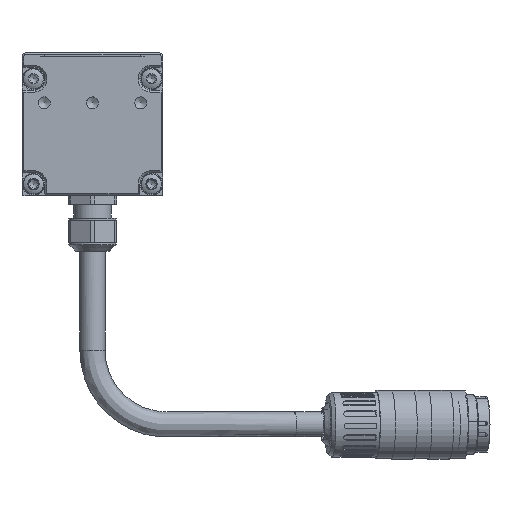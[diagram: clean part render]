
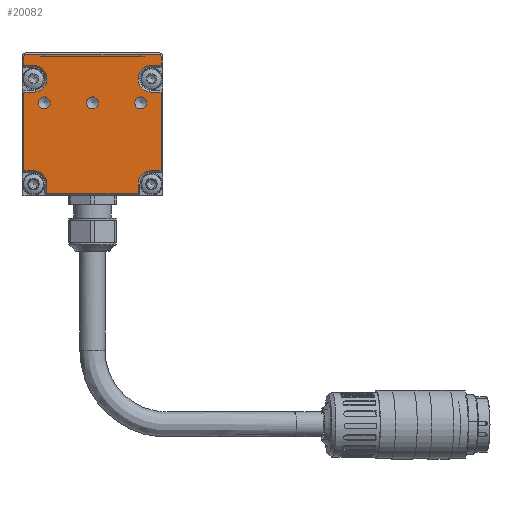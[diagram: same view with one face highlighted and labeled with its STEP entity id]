
A CAD part, left-side view. The second image highlights one B-rep face of the part: STEP entity #20082.
In plain terms, the highlighted planar face has unit normal (-1, 0, 0).
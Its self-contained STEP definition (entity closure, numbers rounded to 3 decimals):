
#880=LINE('',#27913,#1882);
#882=LINE('',#27917,#1884);
#886=LINE('',#27925,#1888);
#889=LINE('',#27931,#1891);
#891=LINE('',#27936,#1893);
#895=LINE('',#27944,#1897);
#897=LINE('',#27948,#1899);
#901=LINE('',#27957,#1903);
#903=LINE('',#27962,#1905);
#906=LINE('',#27970,#1908);
#909=LINE('',#27976,#1911);
#912=LINE('',#27984,#1914);
#916=LINE('',#27992,#1918);
#919=LINE('',#27999,#1921);
#1882=VECTOR('',#23214,1000.);
#1884=VECTOR('',#23218,1000.);
#1888=VECTOR('',#23224,1000.);
#1891=VECTOR('',#23229,1000.);
#1893=VECTOR('',#23235,1000.);
#1897=VECTOR('',#23241,1000.);
#1899=VECTOR('',#23247,1000.);
#1903=VECTOR('',#23257,1000.);
#1905=VECTOR('',#23265,1000.);
#1908=VECTOR('',#23274,1000.);
#1911=VECTOR('',#23283,1000.);
#1914=VECTOR('',#23292,1000.);
#1918=VECTOR('',#23302,1000.);
#1921=VECTOR('',#23311,1000.);
#2682=PLANE('',#21147);
#3923=ORIENTED_EDGE('',*,*,#7674,.T.);
#3924=ORIENTED_EDGE('',*,*,#7675,.T.);
#3925=ORIENTED_EDGE('',*,*,#7676,.T.);
#3926=ORIENTED_EDGE('',*,*,#7648,.T.);
#3927=ORIENTED_EDGE('',*,*,#7645,.T.);
#3928=ORIENTED_EDGE('',*,*,#7639,.T.);
#3929=ORIENTED_EDGE('',*,*,#7656,.T.);
#3930=ORIENTED_EDGE('',*,*,#7654,.T.);
#3931=ORIENTED_EDGE('',*,*,#7652,.T.);
#3932=ORIENTED_EDGE('',*,*,#7630,.T.);
#3933=ORIENTED_EDGE('',*,*,#7663,.T.);
#3934=ORIENTED_EDGE('',*,*,#7661,.T.);
#3935=ORIENTED_EDGE('',*,*,#7659,.T.);
#3936=ORIENTED_EDGE('',*,*,#7628,.T.);
#3937=ORIENTED_EDGE('',*,*,#7673,.F.);
#3938=ORIENTED_EDGE('',*,*,#7643,.T.);
#3939=ORIENTED_EDGE('',*,*,#7672,.F.);
#3940=ORIENTED_EDGE('',*,*,#7637,.T.);
#3941=ORIENTED_EDGE('',*,*,#7671,.T.);
#3942=ORIENTED_EDGE('',*,*,#7669,.T.);
#3943=ORIENTED_EDGE('',*,*,#7667,.T.);
#3944=ORIENTED_EDGE('',*,*,#7634,.T.);
#3945=ORIENTED_EDGE('',*,*,#7650,.T.);
#7628=EDGE_CURVE('',#9566,#9567,#880,.T.);
#7630=EDGE_CURVE('',#9569,#9568,#882,.T.);
#7634=EDGE_CURVE('',#9570,#9571,#886,.T.);
#7637=EDGE_CURVE('',#9572,#9573,#889,.T.);
#7639=EDGE_CURVE('',#9575,#9574,#891,.T.);
#7643=EDGE_CURVE('',#9576,#9577,#895,.T.);
#7645=EDGE_CURVE('',#9578,#9575,#897,.T.);
#7648=EDGE_CURVE('',#9579,#9578,#10697,.T.);
#7650=EDGE_CURVE('',#9571,#9579,#901,.T.);
#7652=EDGE_CURVE('',#9580,#9569,#903,.T.);
#7654=EDGE_CURVE('',#9581,#9580,#10698,.T.);
#7656=EDGE_CURVE('',#9574,#9581,#906,.T.);
#7659=EDGE_CURVE('',#9582,#9566,#909,.T.);
#7661=EDGE_CURVE('',#9583,#9582,#10699,.T.);
#7663=EDGE_CURVE('',#9568,#9583,#912,.T.);
#7667=EDGE_CURVE('',#9584,#9570,#916,.T.);
#7669=EDGE_CURVE('',#9585,#9584,#10700,.T.);
#7671=EDGE_CURVE('',#9573,#9585,#919,.T.);
#7672=EDGE_CURVE('',#9572,#9577,#10701,.T.);
#7673=EDGE_CURVE('',#9576,#9567,#10702,.T.);
#7674=EDGE_CURVE('',#9586,#9586,#10703,.T.);
#7675=EDGE_CURVE('',#9587,#9587,#10704,.T.);
#7676=EDGE_CURVE('',#9588,#9588,#10705,.T.);
#9566=VERTEX_POINT('',#27910);
#9567=VERTEX_POINT('',#27912);
#9568=VERTEX_POINT('',#27916);
#9569=VERTEX_POINT('',#27918);
#9570=VERTEX_POINT('',#27922);
#9571=VERTEX_POINT('',#27924);
#9572=VERTEX_POINT('',#27928);
#9573=VERTEX_POINT('',#27930);
#9574=VERTEX_POINT('',#27935);
#9575=VERTEX_POINT('',#27937);
#9576=VERTEX_POINT('',#27941);
#9577=VERTEX_POINT('',#27943);
#9578=VERTEX_POINT('',#27949);
#9579=VERTEX_POINT('',#27953);
#9580=VERTEX_POINT('',#27963);
#9581=VERTEX_POINT('',#27967);
#9582=VERTEX_POINT('',#27977);
#9583=VERTEX_POINT('',#27981);
#9584=VERTEX_POINT('',#27991);
#9585=VERTEX_POINT('',#27995);
#9586=VERTEX_POINT('',#28007);
#9587=VERTEX_POINT('',#28009);
#9588=VERTEX_POINT('',#28011);
#10697=CIRCLE('',#21122,3.6);
#10698=CIRCLE('',#21128,3.6);
#10699=CIRCLE('',#21134,3.6);
#10700=CIRCLE('',#21140,3.6);
#10701=CIRCLE('',#21144,0.5);
#10702=CIRCLE('',#21146,0.5);
#10703=CIRCLE('',#21148,1.621);
#10704=CIRCLE('',#21149,1.621);
#10705=CIRCLE('',#21150,1.621);
#11388=EDGE_LOOP('',(#3923));
#11389=EDGE_LOOP('',(#3924));
#11390=EDGE_LOOP('',(#3925));
#11391=EDGE_LOOP('',(#3926,#3927,#3928,#3929,#3930,#3931,#3932,#3933,#3934,
#3935,#3936,#3937,#3938,#3939,#3940,#3941,#3942,#3943,#3944,#3945));
#12478=FACE_BOUND('',#11388,.T.);
#12479=FACE_BOUND('',#11389,.T.);
#12480=FACE_BOUND('',#11390,.T.);
#12481=FACE_BOUND('',#11391,.T.);
#20082=ADVANCED_FACE('',(#12478,#12479,#12480,#12481),#2682,.F.);
#21122=AXIS2_PLACEMENT_3D('',#27954,#23252,#23253);
#21128=AXIS2_PLACEMENT_3D('',#27966,#23269,#23270);
#21134=AXIS2_PLACEMENT_3D('',#27980,#23287,#23288);
#21140=AXIS2_PLACEMENT_3D('',#27996,#23306,#23307);
#21144=AXIS2_PLACEMENT_3D('',#28002,#23316,#23317);
#21146=AXIS2_PLACEMENT_3D('',#28004,#23320,#23321);
#21147=AXIS2_PLACEMENT_3D('',#28005,#23322,#23323);
#21148=AXIS2_PLACEMENT_3D('',#28006,#23324,#23325);
#21149=AXIS2_PLACEMENT_3D('',#28008,#23326,#23327);
#21150=AXIS2_PLACEMENT_3D('',#28010,#23328,#23329);
#23214=DIRECTION('',(0.,0.,1.));
#23218=DIRECTION('',(0.,0.,1.));
#23224=DIRECTION('',(0.,0.,-1.));
#23229=DIRECTION('',(0.,0.,-1.));
#23235=DIRECTION('',(0.,-1.,0.));
#23241=DIRECTION('',(0.,1.,0.));
#23247=DIRECTION('',(0.,0.,-1.));
#23252=DIRECTION('',(1.,0.,0.));
#23253=DIRECTION('',(0.,1.,0.));
#23257=DIRECTION('',(0.,-1.,0.));
#23265=DIRECTION('',(0.,-1.,0.));
#23269=DIRECTION('',(1.,0.,0.));
#23270=DIRECTION('',(0.,1.,0.));
#23274=DIRECTION('',(0.,0.,1.));
#23283=DIRECTION('',(0.,-1.,0.));
#23287=DIRECTION('',(1.,0.,0.));
#23288=DIRECTION('',(0.,1.,0.));
#23292=DIRECTION('',(0.,1.,0.));
#23302=DIRECTION('',(0.,1.,0.));
#23306=DIRECTION('',(1.,0.,0.));
#23307=DIRECTION('',(0.,1.,0.));
#23311=DIRECTION('',(0.,-1.,0.));
#23316=DIRECTION('',(1.,0.,0.));
#23317=DIRECTION('',(0.,1.,0.));
#23320=DIRECTION('',(1.,0.,0.));
#23321=DIRECTION('',(0.,1.,0.));
#23322=DIRECTION('',(1.,0.,0.));
#23323=DIRECTION('',(0.,1.,0.));
#23324=DIRECTION('',(1.,0.,0.));
#23325=DIRECTION('',(0.,-1.,0.));
#23326=DIRECTION('',(1.,0.,0.));
#23327=DIRECTION('',(0.,-1.,0.));
#23328=DIRECTION('',(1.,0.,0.));
#23329=DIRECTION('',(0.,-1.,0.));
#27910=CARTESIAN_POINT('',(-814.998,-18.5,35.119));
#27912=CARTESIAN_POINT('',(-814.998,-18.5,37.519));
#27913=CARTESIAN_POINT('',(-814.998,-18.5,0.019));
#27916=CARTESIAN_POINT('',(-814.998,-18.5,27.919));
#27917=CARTESIAN_POINT('',(-814.998,-18.5,0.019));
#27918=CARTESIAN_POINT('',(-814.998,-18.5,6.719));
#27922=CARTESIAN_POINT('',(-814.998,18.5,27.919));
#27924=CARTESIAN_POINT('',(-814.998,18.5,6.719));
#27925=CARTESIAN_POINT('',(-814.998,18.5,0.019));
#27928=CARTESIAN_POINT('',(-814.998,18.5,37.519));
#27930=CARTESIAN_POINT('',(-814.998,18.5,35.119));
#27931=CARTESIAN_POINT('',(-814.998,18.5,0.019));
#27935=CARTESIAN_POINT('',(-814.998,-12.3,0.519));
#27936=CARTESIAN_POINT('',(-814.998,-12.3,0.519));
#27937=CARTESIAN_POINT('',(-814.998,12.3,0.519));
#27941=CARTESIAN_POINT('',(-814.998,-18.,38.019));
#27943=CARTESIAN_POINT('',(-814.998,18.,38.019));
#27944=CARTESIAN_POINT('',(-814.998,-19.,38.019));
#27948=CARTESIAN_POINT('',(-814.998,12.3,0.019));
#27949=CARTESIAN_POINT('',(-814.998,12.3,3.119));
#27953=CARTESIAN_POINT('',(-814.998,15.9,6.719));
#27954=CARTESIAN_POINT('',(-814.998,15.9,3.119));
#27957=CARTESIAN_POINT('',(-814.998,-19.,6.719));
#27962=CARTESIAN_POINT('',(-814.998,-19.,6.719));
#27963=CARTESIAN_POINT('',(-814.998,-15.9,6.719));
#27966=CARTESIAN_POINT('',(-814.998,-15.9,3.119));
#27967=CARTESIAN_POINT('',(-814.998,-12.3,3.119));
#27970=CARTESIAN_POINT('',(-814.998,-12.3,0.019));
#27976=CARTESIAN_POINT('',(-814.998,-19.,35.119));
#27977=CARTESIAN_POINT('',(-814.998,-15.9,35.119));
#27980=CARTESIAN_POINT('',(-814.998,-15.9,31.519));
#27981=CARTESIAN_POINT('',(-814.998,-15.9,27.919));
#27984=CARTESIAN_POINT('',(-814.998,-19.,27.919));
#27991=CARTESIAN_POINT('',(-814.998,15.9,27.919));
#27992=CARTESIAN_POINT('',(-814.998,-19.,27.919));
#27995=CARTESIAN_POINT('',(-814.998,15.9,35.119));
#27996=CARTESIAN_POINT('',(-814.998,15.9,31.519));
#27999=CARTESIAN_POINT('',(-814.998,-19.,35.119));
#28002=CARTESIAN_POINT('',(-814.998,18.,37.519));
#28004=CARTESIAN_POINT('',(-814.998,-18.,37.519));
#28005=CARTESIAN_POINT('',(-814.998,-19.,0.019));
#28006=CARTESIAN_POINT('',(-814.998,13.,25.019));
#28007=CARTESIAN_POINT('',(-814.998,11.379,25.019));
#28008=CARTESIAN_POINT('',(-814.998,0.,25.019));
#28009=CARTESIAN_POINT('',(-814.998,-1.621,25.019));
#28010=CARTESIAN_POINT('',(-814.998,-13.,25.019));
#28011=CARTESIAN_POINT('',(-814.998,-14.621,25.019));
